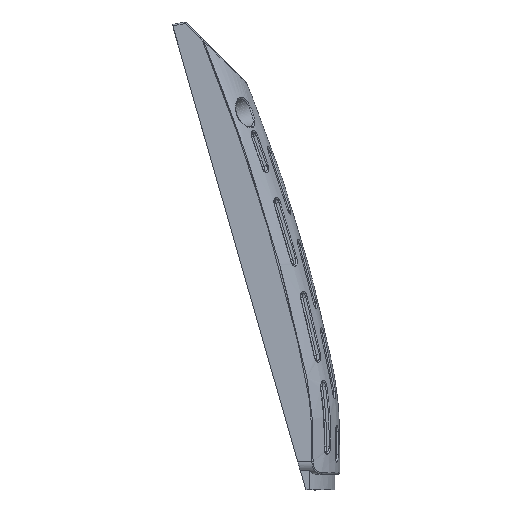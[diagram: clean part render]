
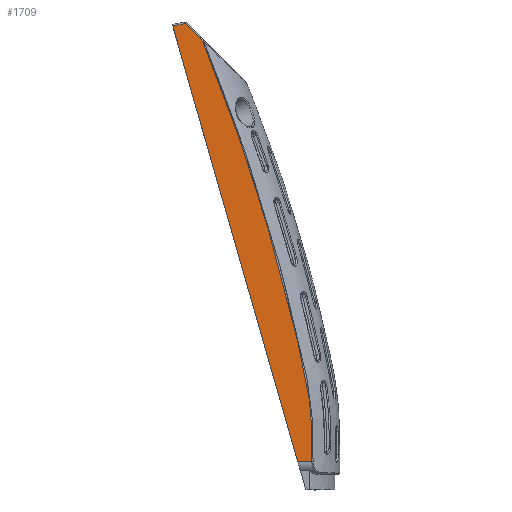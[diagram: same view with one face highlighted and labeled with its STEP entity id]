
A CAD part, left-side view. The second image highlights one B-rep face of the part: STEP entity #1709.
In plain terms, the highlighted planar face has unit normal (-1, 0, 0).
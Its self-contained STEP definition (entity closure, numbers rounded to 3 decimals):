
#492=PLANE('',#7254);
#821=LINE('',#11114,#993);
#919=LINE('',#12829,#1091);
#920=LINE('',#12836,#1092);
#993=VECTOR('',#7599,1.);
#1091=VECTOR('',#7815,1.);
#1092=VECTOR('',#7816,1.);
#1252=FACE_OUTER_BOUND('',#2252,.T.);
#1709=ADVANCED_FACE('',(#1252),#492,.F.);
#2252=EDGE_LOOP('',(#3091,#3092,#3093,#3094,#3095,#3096));
#3091=ORIENTED_EDGE('',*,*,#5834,.T.);
#3092=ORIENTED_EDGE('',*,*,#5835,.T.);
#3093=ORIENTED_EDGE('',*,*,#5601,.T.);
#3094=ORIENTED_EDGE('',*,*,#5836,.T.);
#3095=ORIENTED_EDGE('',*,*,#5837,.T.);
#3096=ORIENTED_EDGE('',*,*,#5838,.T.);
#4961=VERTEX_POINT('',#11115);
#4962=VERTEX_POINT('',#11116);
#5153=VERTEX_POINT('',#12830);
#5154=VERTEX_POINT('',#12831);
#5155=VERTEX_POINT('',#12837);
#5156=VERTEX_POINT('',#12848);
#5601=EDGE_CURVE('',#4961,#4962,#821,.T.);
#5834=EDGE_CURVE('',#5153,#5154,#919,.T.);
#5835=EDGE_CURVE('',#5154,#4961,#6784,.T.);
#5836=EDGE_CURVE('',#4962,#5155,#920,.T.);
#5837=EDGE_CURVE('',#5155,#5156,#6785,.T.);
#5838=EDGE_CURVE('',#5156,#5153,#6786,.T.);
#6784=B_SPLINE_CURVE_WITH_KNOTS('',3,(#12832,#12833,#12834,#12835),.UNSPECIFIED.,
 .F.,.F.,(4,4),(0.,1.),.UNSPECIFIED.);
#6785=B_SPLINE_CURVE_WITH_KNOTS('',3,(#12838,#12839,#12840,#12841,#12842,
#12843,#12844,#12845,#12846,#12847),.UNSPECIFIED.,.F.,.F.,(4,2,2,2,4),(0.,
0.125,0.25,0.5,1.),.UNSPECIFIED.);
#6786=B_SPLINE_CURVE_WITH_KNOTS('',3,(#12849,#12850,#12851,#12852,#12853,
#12854,#12855),.UNSPECIFIED.,.F.,.F.,(4,3,4),(0.,0.685,1.),.UNSPECIFIED.);
#7254=AXIS2_PLACEMENT_3D('',#12856,#7817,#7818);
#7599=DIRECTION('',(0.,-0.276,-0.961));
#7815=DIRECTION('',(0.,0.707,0.707));
#7816=DIRECTION('',(0.,-1.,0.));
#7817=DIRECTION('',(1.,0.,0.));
#7818=DIRECTION('',(0.,0.,-1.));
#11114=CARTESIAN_POINT('',(75.024,41.,69.24));
#11115=CARTESIAN_POINT('',(75.024,76.29,192.313));
#11116=CARTESIAN_POINT('',(75.024,51.016,104.17));
#12829=CARTESIAN_POINT('',(75.024,19.23,138.28));
#12830=CARTESIAN_POINT('',(75.024,70.709,189.76));
#12831=CARTESIAN_POINT('',(75.024,73.763,192.813));
#12832=CARTESIAN_POINT('',(75.024,73.763,192.813));
#12833=CARTESIAN_POINT('',(75.024,74.61,192.67));
#12834=CARTESIAN_POINT('',(75.024,75.452,192.501));
#12835=CARTESIAN_POINT('',(75.024,76.29,192.313));
#12836=CARTESIAN_POINT('',(75.024,107.273,104.17));
#12837=CARTESIAN_POINT('',(75.024,48.142,104.17));
#12838=CARTESIAN_POINT('',(75.024,48.142,104.17));
#12839=CARTESIAN_POINT('',(75.024,48.146,107.884));
#12840=CARTESIAN_POINT('',(75.024,48.103,111.606));
#12841=CARTESIAN_POINT('',(75.024,48.867,118.896));
#12842=CARTESIAN_POINT('',(75.024,49.667,122.465));
#12843=CARTESIAN_POINT('',(75.024,52.046,133.177));
#12844=CARTESIAN_POINT('',(75.024,53.834,140.281));
#12845=CARTESIAN_POINT('',(75.024,59.817,161.482));
#12846=CARTESIAN_POINT('',(75.024,64.596,175.36));
#12847=CARTESIAN_POINT('',(75.024,70.152,188.96));
#12848=CARTESIAN_POINT('',(75.024,70.152,188.96));
#12849=CARTESIAN_POINT('',(75.024,70.152,188.96));
#12850=CARTESIAN_POINT('',(75.024,70.236,189.166));
#12851=CARTESIAN_POINT('',(75.024,70.361,189.357));
#12852=CARTESIAN_POINT('',(75.024,70.501,189.53));
#12853=CARTESIAN_POINT('',(75.024,70.567,189.61));
#12854=CARTESIAN_POINT('',(75.024,70.636,189.687));
#12855=CARTESIAN_POINT('',(75.024,70.709,189.76));
#12856=CARTESIAN_POINT('',(75.024,107.273,50.236));
